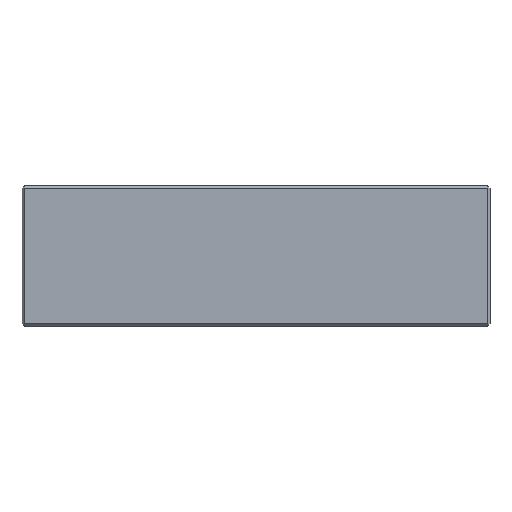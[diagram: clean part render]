
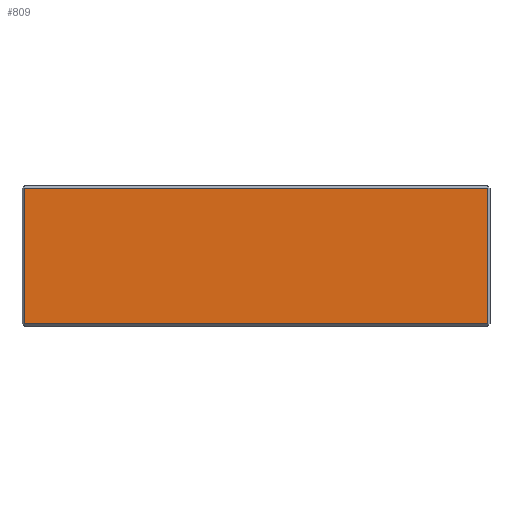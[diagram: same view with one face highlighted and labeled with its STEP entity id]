
A CAD part, top view. The second image highlights one B-rep face of the part: STEP entity #809.
In plain terms, the highlighted planar face has unit normal (0, 0, 1).
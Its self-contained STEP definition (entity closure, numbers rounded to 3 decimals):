
#100 = PLANE('',#101);
#101 = AXIS2_PLACEMENT_3D('',#102,#103,#104);
#102 = CARTESIAN_POINT('',(1.,0.,17.));
#103 = DIRECTION('',(0.707,0.,-0.707));
#104 = DIRECTION('',(0.,1.,0.));
#439 = VERTEX_POINT('',#440);
#440 = CARTESIAN_POINT('',(2.,118.,18.));
#461 = EDGE_CURVE('',#462,#439,#464,.T.);
#462 = VERTEX_POINT('',#463);
#463 = CARTESIAN_POINT('',(2.,2.,18.));
#464 = SURFACE_CURVE('',#465,(#469,#476),.PCURVE_S1.);
#465 = LINE('',#466,#467);
#466 = CARTESIAN_POINT('',(2.,0.,18.));
#467 = VECTOR('',#468,1.);
#468 = DIRECTION('',(0.,1.,0.));
#469 = PCURVE('',#100,#470);
#470 = DEFINITIONAL_REPRESENTATION('',(#471),#475);
#471 = LINE('',#472,#473);
#472 = CARTESIAN_POINT('',(0.,1.414));
#473 = VECTOR('',#474,1.);
#474 = DIRECTION('',(1.,0.));
#475 = ( GEOMETRIC_REPRESENTATION_CONTEXT(2) 
PARAMETRIC_REPRESENTATION_CONTEXT() REPRESENTATION_CONTEXT('2D SPACE',''
  ) );
#476 = PCURVE('',#477,#482);
#477 = PLANE('',#478);
#478 = AXIS2_PLACEMENT_3D('',#479,#480,#481);
#479 = CARTESIAN_POINT('',(0.,0.,18.));
#480 = DIRECTION('',(0.,0.,1.));
#481 = DIRECTION('',(1.,0.,0.));
#482 = DEFINITIONAL_REPRESENTATION('',(#483),#487);
#483 = LINE('',#484,#485);
#484 = CARTESIAN_POINT('',(2.,0.));
#485 = VECTOR('',#486,1.);
#486 = DIRECTION('',(0.,1.));
#487 = ( GEOMETRIC_REPRESENTATION_CONTEXT(2) 
PARAMETRIC_REPRESENTATION_CONTEXT() REPRESENTATION_CONTEXT('2D SPACE',''
  ) );
#531 = PLANE('',#532);
#532 = AXIS2_PLACEMENT_3D('',#533,#534,#535);
#533 = CARTESIAN_POINT('',(0.,1.,17.));
#534 = DIRECTION('',(0.,0.707,-0.707));
#535 = DIRECTION('',(-1.,-0.,-0.));
#585 = PLANE('',#586);
#586 = AXIS2_PLACEMENT_3D('',#587,#588,#589);
#587 = CARTESIAN_POINT('',(0.,119.,17.));
#588 = DIRECTION('',(0.,0.707,0.707));
#589 = DIRECTION('',(-1.,-0.,0.));
#745 = PLANE('',#746);
#746 = AXIS2_PLACEMENT_3D('',#747,#748,#749);
#747 = CARTESIAN_POINT('',(399.,0.,17.));
#748 = DIRECTION('',(0.707,0.,0.707));
#749 = DIRECTION('',(-0.,1.,0.));
#809 = ADVANCED_FACE('',(#810),#477,.T.);
#810 = FACE_BOUND('',#811,.T.);
#811 = EDGE_LOOP('',(#812,#813,#836,#859));
#812 = ORIENTED_EDGE('',*,*,#461,.F.);
#813 = ORIENTED_EDGE('',*,*,#814,.T.);
#814 = EDGE_CURVE('',#462,#815,#817,.T.);
#815 = VERTEX_POINT('',#816);
#816 = CARTESIAN_POINT('',(398.,2.,18.));
#817 = SURFACE_CURVE('',#818,(#822,#829),.PCURVE_S1.);
#818 = LINE('',#819,#820);
#819 = CARTESIAN_POINT('',(0.,2.,18.));
#820 = VECTOR('',#821,1.);
#821 = DIRECTION('',(1.,0.,0.));
#822 = PCURVE('',#477,#823);
#823 = DEFINITIONAL_REPRESENTATION('',(#824),#828);
#824 = LINE('',#825,#826);
#825 = CARTESIAN_POINT('',(0.,2.));
#826 = VECTOR('',#827,1.);
#827 = DIRECTION('',(1.,0.));
#828 = ( GEOMETRIC_REPRESENTATION_CONTEXT(2) 
PARAMETRIC_REPRESENTATION_CONTEXT() REPRESENTATION_CONTEXT('2D SPACE',''
  ) );
#829 = PCURVE('',#531,#830);
#830 = DEFINITIONAL_REPRESENTATION('',(#831),#835);
#831 = LINE('',#832,#833);
#832 = CARTESIAN_POINT('',(-0.,1.414));
#833 = VECTOR('',#834,1.);
#834 = DIRECTION('',(-1.,0.));
#835 = ( GEOMETRIC_REPRESENTATION_CONTEXT(2) 
PARAMETRIC_REPRESENTATION_CONTEXT() REPRESENTATION_CONTEXT('2D SPACE',''
  ) );
#836 = ORIENTED_EDGE('',*,*,#837,.T.);
#837 = EDGE_CURVE('',#815,#838,#840,.T.);
#838 = VERTEX_POINT('',#839);
#839 = CARTESIAN_POINT('',(398.,118.,18.));
#840 = SURFACE_CURVE('',#841,(#845,#852),.PCURVE_S1.);
#841 = LINE('',#842,#843);
#842 = CARTESIAN_POINT('',(398.,0.,18.));
#843 = VECTOR('',#844,1.);
#844 = DIRECTION('',(0.,1.,0.));
#845 = PCURVE('',#477,#846);
#846 = DEFINITIONAL_REPRESENTATION('',(#847),#851);
#847 = LINE('',#848,#849);
#848 = CARTESIAN_POINT('',(398.,0.));
#849 = VECTOR('',#850,1.);
#850 = DIRECTION('',(0.,1.));
#851 = ( GEOMETRIC_REPRESENTATION_CONTEXT(2) 
PARAMETRIC_REPRESENTATION_CONTEXT() REPRESENTATION_CONTEXT('2D SPACE',''
  ) );
#852 = PCURVE('',#745,#853);
#853 = DEFINITIONAL_REPRESENTATION('',(#854),#858);
#854 = LINE('',#855,#856);
#855 = CARTESIAN_POINT('',(0.,1.414));
#856 = VECTOR('',#857,1.);
#857 = DIRECTION('',(1.,0.));
#858 = ( GEOMETRIC_REPRESENTATION_CONTEXT(2) 
PARAMETRIC_REPRESENTATION_CONTEXT() REPRESENTATION_CONTEXT('2D SPACE',''
  ) );
#859 = ORIENTED_EDGE('',*,*,#860,.F.);
#860 = EDGE_CURVE('',#439,#838,#861,.T.);
#861 = SURFACE_CURVE('',#862,(#866,#873),.PCURVE_S1.);
#862 = LINE('',#863,#864);
#863 = CARTESIAN_POINT('',(0.,118.,18.));
#864 = VECTOR('',#865,1.);
#865 = DIRECTION('',(1.,0.,0.));
#866 = PCURVE('',#477,#867);
#867 = DEFINITIONAL_REPRESENTATION('',(#868),#872);
#868 = LINE('',#869,#870);
#869 = CARTESIAN_POINT('',(0.,118.));
#870 = VECTOR('',#871,1.);
#871 = DIRECTION('',(1.,0.));
#872 = ( GEOMETRIC_REPRESENTATION_CONTEXT(2) 
PARAMETRIC_REPRESENTATION_CONTEXT() REPRESENTATION_CONTEXT('2D SPACE',''
  ) );
#873 = PCURVE('',#585,#874);
#874 = DEFINITIONAL_REPRESENTATION('',(#875),#879);
#875 = LINE('',#876,#877);
#876 = CARTESIAN_POINT('',(-0.,1.414));
#877 = VECTOR('',#878,1.);
#878 = DIRECTION('',(-1.,0.));
#879 = ( GEOMETRIC_REPRESENTATION_CONTEXT(2) 
PARAMETRIC_REPRESENTATION_CONTEXT() REPRESENTATION_CONTEXT('2D SPACE',''
  ) );
